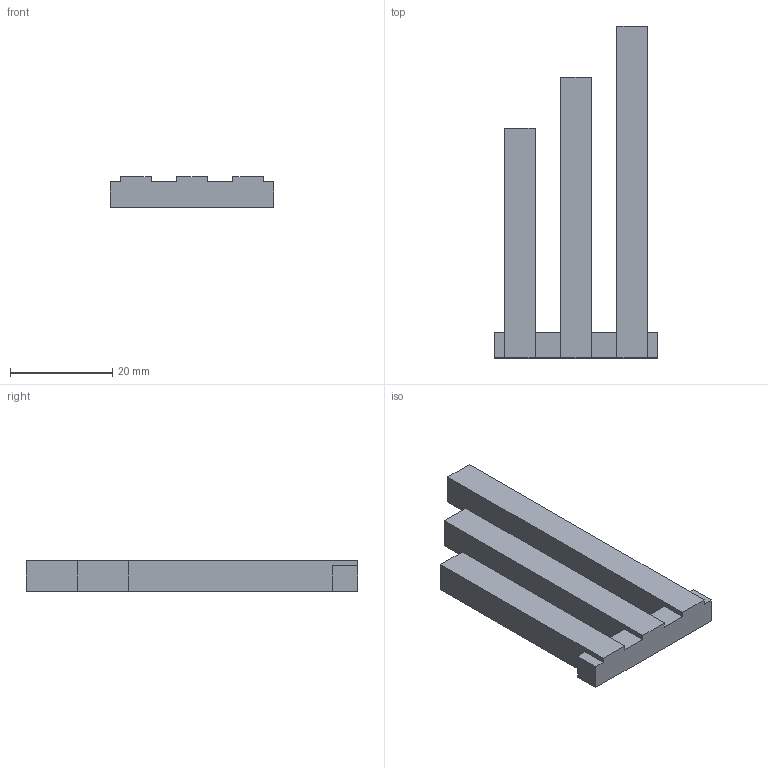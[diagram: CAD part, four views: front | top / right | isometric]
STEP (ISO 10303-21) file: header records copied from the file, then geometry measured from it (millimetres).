
FILE_DESCRIPTION(('FreeCAD Model'),'2;1');
FILE_NAME('Open CASCADE Shape Model','2026-09-11T14:18:25',( '' ),( '' ),'Open CASCADE STEP processor 7.8','FreeCAD','Unknown');
FILE_SCHEMA(('AUTOMOTIVE_DESIGN { 1 0 10303 214 1 1 1 1 }'));
Length unit declared in the file: millimetre
Products named in the file (1): Open CASCADE STEP translator 7.8 12
Bounding box: 32 x 65 x 6 mm (x, y, z)
Volume: 6290 mm3; surface area: 4356 mm2
Topology: 1 solids, 1 shells, 24 faces, 66 edges, 44 vertices
Faces by surface type: plane 24
Entity records: 760 total; most frequent: CARTESIAN_POINT 135, ORIENTED_EDGE 132, DIRECTION 116, EDGE_CURVE 66, LINE 66, VECTOR 66, VERTEX_POINT 44, AXIS2_PLACEMENT_3D 25
